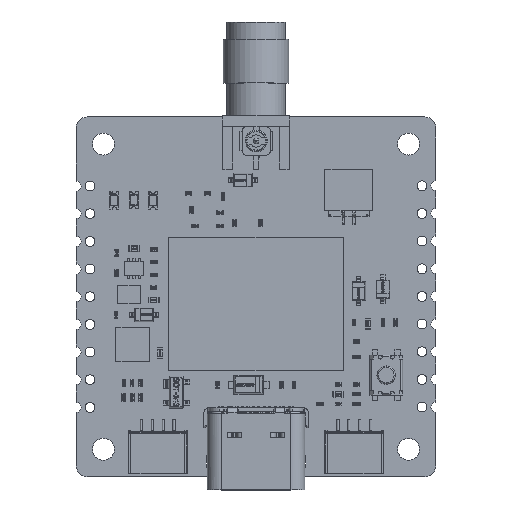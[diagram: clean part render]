
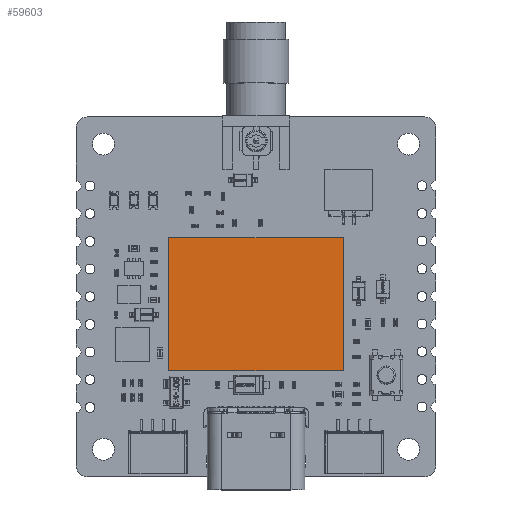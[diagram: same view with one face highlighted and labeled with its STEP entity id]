
A CAD part, top view. The second image highlights one B-rep face of the part: STEP entity #59603.
In plain terms, the highlighted planar face has unit normal (0, 0, 1).
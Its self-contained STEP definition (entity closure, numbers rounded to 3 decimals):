
#59289 = VERTEX_POINT('',#59290);
#59290 = CARTESIAN_POINT('',(-8.,6.1,2.8));
#59297 = PLANE('',#59298);
#59298 = AXIS2_PLACEMENT_3D('',#59299,#59300,#59301);
#59299 = CARTESIAN_POINT('',(-8.,6.1,0.));
#59300 = DIRECTION('',(1.,0.,0.));
#59301 = DIRECTION('',(0.,-1.,0.));
#59309 = PLANE('',#59310);
#59310 = AXIS2_PLACEMENT_3D('',#59311,#59312,#59313);
#59311 = CARTESIAN_POINT('',(8.,6.1,0.));
#59312 = DIRECTION('',(0.,-1.,0.));
#59313 = DIRECTION('',(-1.,0.,0.));
#59321 = EDGE_CURVE('',#59289,#59322,#59324,.T.);
#59322 = VERTEX_POINT('',#59323);
#59323 = CARTESIAN_POINT('',(-8.,-6.1,2.8));
#59324 = SURFACE_CURVE('',#59325,(#59329,#59336),.PCURVE_S1.);
#59325 = LINE('',#59326,#59327);
#59326 = CARTESIAN_POINT('',(-8.,6.1,2.8));
#59327 = VECTOR('',#59328,1.);
#59328 = DIRECTION('',(0.,-1.,0.));
#59329 = PCURVE('',#59297,#59330);
#59330 = DEFINITIONAL_REPRESENTATION('',(#59331),#59335);
#59331 = LINE('',#59332,#59333);
#59332 = CARTESIAN_POINT('',(0.,-2.8));
#59333 = VECTOR('',#59334,1.);
#59334 = DIRECTION('',(1.,0.));
#59335 = ( GEOMETRIC_REPRESENTATION_CONTEXT(2) 
PARAMETRIC_REPRESENTATION_CONTEXT() REPRESENTATION_CONTEXT('2D SPACE',''
  ) );
#59336 = PCURVE('',#59337,#59342);
#59337 = PLANE('',#59338);
#59338 = AXIS2_PLACEMENT_3D('',#59339,#59340,#59341);
#59339 = CARTESIAN_POINT('',(-8.,6.1,2.8));
#59340 = DIRECTION('',(0.,0.,-1.));
#59341 = DIRECTION('',(-1.,0.,0.));
#59342 = DEFINITIONAL_REPRESENTATION('',(#59343),#59347);
#59343 = LINE('',#59344,#59345);
#59344 = CARTESIAN_POINT('',(0.,0.));
#59345 = VECTOR('',#59346,1.);
#59346 = DIRECTION('',(0.,-1.));
#59347 = ( GEOMETRIC_REPRESENTATION_CONTEXT(2) 
PARAMETRIC_REPRESENTATION_CONTEXT() REPRESENTATION_CONTEXT('2D SPACE',''
  ) );
#59365 = PLANE('',#59366);
#59366 = AXIS2_PLACEMENT_3D('',#59367,#59368,#59369);
#59367 = CARTESIAN_POINT('',(-8.,-6.1,0.));
#59368 = DIRECTION('',(0.,1.,0.));
#59369 = DIRECTION('',(1.,0.,0.));
#59407 = EDGE_CURVE('',#59322,#59408,#59410,.T.);
#59408 = VERTEX_POINT('',#59409);
#59409 = CARTESIAN_POINT('',(8.,-6.1,2.8));
#59410 = SURFACE_CURVE('',#59411,(#59415,#59422),.PCURVE_S1.);
#59411 = LINE('',#59412,#59413);
#59412 = CARTESIAN_POINT('',(-8.,-6.1,2.8));
#59413 = VECTOR('',#59414,1.);
#59414 = DIRECTION('',(1.,0.,0.));
#59415 = PCURVE('',#59365,#59416);
#59416 = DEFINITIONAL_REPRESENTATION('',(#59417),#59421);
#59417 = LINE('',#59418,#59419);
#59418 = CARTESIAN_POINT('',(0.,-2.8));
#59419 = VECTOR('',#59420,1.);
#59420 = DIRECTION('',(1.,0.));
#59421 = ( GEOMETRIC_REPRESENTATION_CONTEXT(2) 
PARAMETRIC_REPRESENTATION_CONTEXT() REPRESENTATION_CONTEXT('2D SPACE',''
  ) );
#59422 = PCURVE('',#59337,#59423);
#59423 = DEFINITIONAL_REPRESENTATION('',(#59424),#59428);
#59424 = LINE('',#59425,#59426);
#59425 = CARTESIAN_POINT('',(0.,-12.2));
#59426 = VECTOR('',#59427,1.);
#59427 = DIRECTION('',(-1.,0.));
#59428 = ( GEOMETRIC_REPRESENTATION_CONTEXT(2) 
PARAMETRIC_REPRESENTATION_CONTEXT() REPRESENTATION_CONTEXT('2D SPACE',''
  ) );
#59446 = PLANE('',#59447);
#59447 = AXIS2_PLACEMENT_3D('',#59448,#59449,#59450);
#59448 = CARTESIAN_POINT('',(8.,-6.1,0.));
#59449 = DIRECTION('',(-1.,0.,0.));
#59450 = DIRECTION('',(0.,1.,0.));
#59483 = EDGE_CURVE('',#59408,#59484,#59486,.T.);
#59484 = VERTEX_POINT('',#59485);
#59485 = CARTESIAN_POINT('',(8.,6.1,2.8));
#59486 = SURFACE_CURVE('',#59487,(#59491,#59498),.PCURVE_S1.);
#59487 = LINE('',#59488,#59489);
#59488 = CARTESIAN_POINT('',(8.,-6.1,2.8));
#59489 = VECTOR('',#59490,1.);
#59490 = DIRECTION('',(0.,1.,0.));
#59491 = PCURVE('',#59446,#59492);
#59492 = DEFINITIONAL_REPRESENTATION('',(#59493),#59497);
#59493 = LINE('',#59494,#59495);
#59494 = CARTESIAN_POINT('',(0.,-2.8));
#59495 = VECTOR('',#59496,1.);
#59496 = DIRECTION('',(1.,0.));
#59497 = ( GEOMETRIC_REPRESENTATION_CONTEXT(2) 
PARAMETRIC_REPRESENTATION_CONTEXT() REPRESENTATION_CONTEXT('2D SPACE',''
  ) );
#59498 = PCURVE('',#59337,#59499);
#59499 = DEFINITIONAL_REPRESENTATION('',(#59500),#59504);
#59500 = LINE('',#59501,#59502);
#59501 = CARTESIAN_POINT('',(-16.,-12.2));
#59502 = VECTOR('',#59503,1.);
#59503 = DIRECTION('',(0.,1.));
#59504 = ( GEOMETRIC_REPRESENTATION_CONTEXT(2) 
PARAMETRIC_REPRESENTATION_CONTEXT() REPRESENTATION_CONTEXT('2D SPACE',''
  ) );
#59554 = EDGE_CURVE('',#59484,#59289,#59555,.T.);
#59555 = SURFACE_CURVE('',#59556,(#59560,#59567),.PCURVE_S1.);
#59556 = LINE('',#59557,#59558);
#59557 = CARTESIAN_POINT('',(8.,6.1,2.8));
#59558 = VECTOR('',#59559,1.);
#59559 = DIRECTION('',(-1.,0.,0.));
#59560 = PCURVE('',#59309,#59561);
#59561 = DEFINITIONAL_REPRESENTATION('',(#59562),#59566);
#59562 = LINE('',#59563,#59564);
#59563 = CARTESIAN_POINT('',(0.,-2.8));
#59564 = VECTOR('',#59565,1.);
#59565 = DIRECTION('',(1.,0.));
#59566 = ( GEOMETRIC_REPRESENTATION_CONTEXT(2) 
PARAMETRIC_REPRESENTATION_CONTEXT() REPRESENTATION_CONTEXT('2D SPACE',''
  ) );
#59567 = PCURVE('',#59337,#59568);
#59568 = DEFINITIONAL_REPRESENTATION('',(#59569),#59573);
#59569 = LINE('',#59570,#59571);
#59570 = CARTESIAN_POINT('',(-16.,0.));
#59571 = VECTOR('',#59572,1.);
#59572 = DIRECTION('',(1.,0.));
#59573 = ( GEOMETRIC_REPRESENTATION_CONTEXT(2) 
PARAMETRIC_REPRESENTATION_CONTEXT() REPRESENTATION_CONTEXT('2D SPACE',''
  ) );
#59603 = ADVANCED_FACE('',(#59604),#59337,.F.);
#59604 = FACE_BOUND('',#59605,.T.);
#59605 = EDGE_LOOP('',(#59606,#59607,#59608,#59609));
#59606 = ORIENTED_EDGE('',*,*,#59321,.T.);
#59607 = ORIENTED_EDGE('',*,*,#59407,.T.);
#59608 = ORIENTED_EDGE('',*,*,#59483,.T.);
#59609 = ORIENTED_EDGE('',*,*,#59554,.T.);
